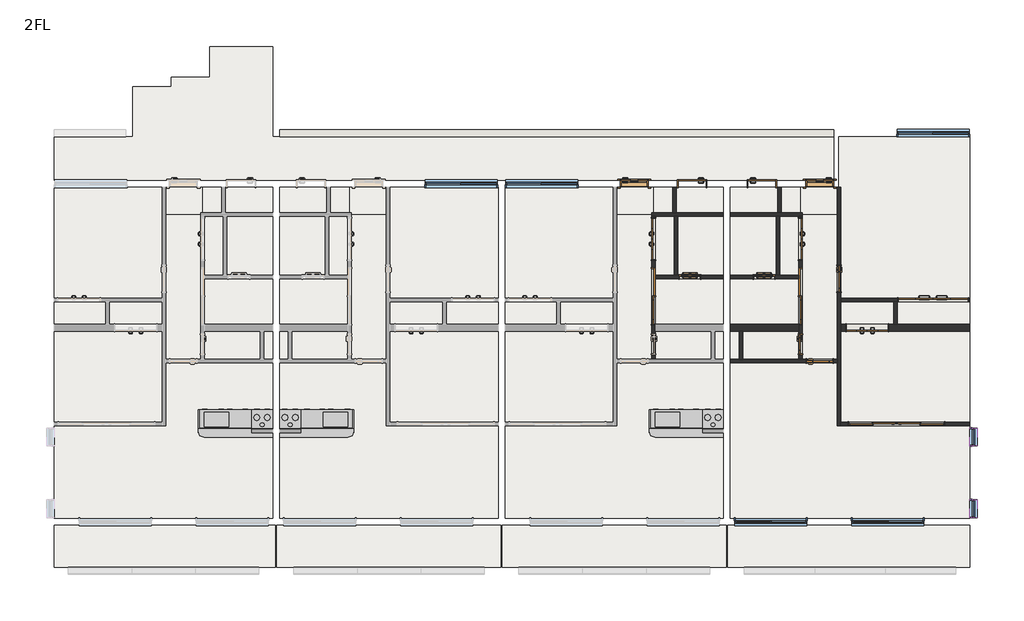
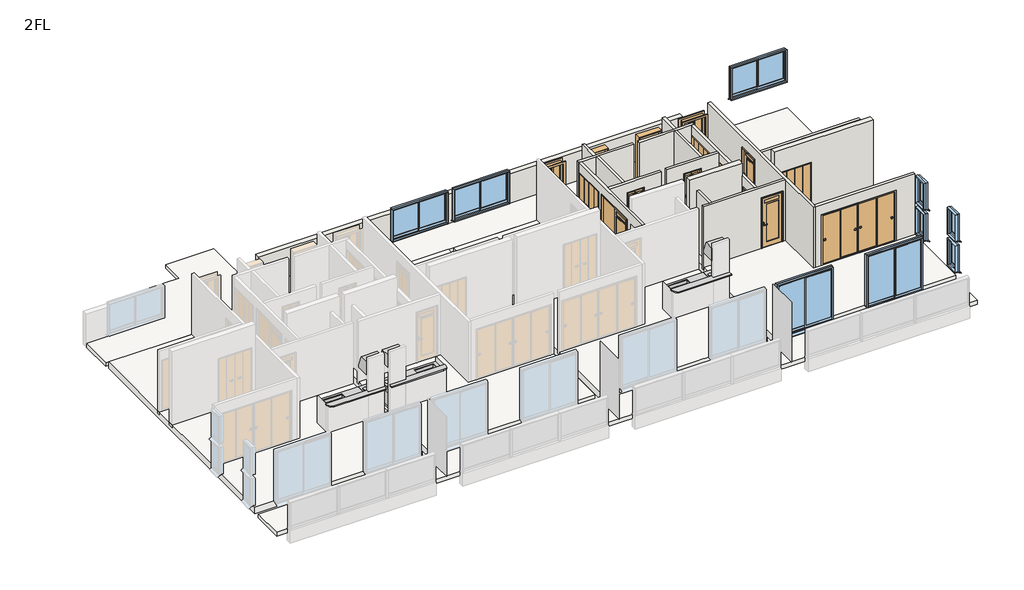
# One storey, part 3 of 3: 19 walls, 16 doors, 14 slabs, 9 windows, 3 flow terminals, 3 furniture elements.
"""IFC4 building model written with IfcOpenShell, lengths in millimetres."""

from ifc_helpers import new_model, si_unit, frame, origin, place, context, project, spatial, polyline, outline, extrude, faceted_brep, transform, mapped, element, save
from components import door_800x2000_a7d1584b, door_800x2000_010bfebf, w1200h2000_6a144d60, w1200h2000_99d19fb3, w1200h2000_ebe1d490, w1600h2000_4c3c234a, w1600h2000_ca690e72, w2000h2000_5dbb6d6a, w2800h2000_04aa64cd, w600h2000_6a266bef, w600h2000_94bb9c3c, w600h2000_8ea70a65, w800h2000_1d97c4d4, w800h2000_13e9f519, w800h2000_ccb03061, w800h2000_0ab7d42c, flow_terminal_5276808d, flow_terminal_b13850ba, furniture_3a0496f9, furniture_dadabe7c, window_2000x1200_fc91d1cf, window_2000x2000_f1ff98da, window_450x1000_1cddc73c

model = new_model("IFC4")

# Units and contexts
model_context = context("Model", 3, world=origin())
ifc_project = project(units=[si_unit("LENGTHUNIT", "METRE", prefix="MILLI")], contexts=[model_context])

# Site, building, storey
site = spatial("IfcSite", under=ifc_project)
building = spatial("IfcBuilding", under=site)
storey = spatial("IfcBuildingStorey", under=building, Name="2FL", Elevation=4000.0)

# Doors
placement = place(None, origin())
door_800x2000_shape = door_800x2000_a7d1584b(model_context)
element("IfcDoor", 1, ObjectType="片開き3 : 800x2000", at=placement, inside=storey, context=model_context, shape_type="MappedRepresentation", body=[
    mapped(door_800x2000_shape, transform((5521.2812754, -5700.1171638, 4000.0), x_axis=(1.0, 0.0, 0.0), y_axis=(0.0, 1.0, 0.0), z_axis=(0.0, 0.0, 1.0))),
])
door_800x2000_2_shape = door_800x2000_010bfebf(model_context)
element("IfcDoor", 2, ObjectType="片開き3 : 800x2000", at=placement, inside=storey, context=model_context, shape_type="MappedRepresentation", body=[
    mapped(door_800x2000_2_shape, transform((10821.2812754, -5700.1171638, 4000.0), x_axis=(-1.0, 0.0, 0.0), y_axis=(0.0, -1.0, 0.0), z_axis=(0.0, 0.0, 1.0))),
])
w1200h2000_shape = w1200h2000_6a144d60(model_context)
element("IfcDoor", 3, ObjectType="木製折戸 : w1200h2000", at=placement, inside=storey, context=model_context, shape_type="MappedRepresentation", body=[
    mapped(w1200h2000_shape, transform((6071.2812754, -7280.1171638, 4100.0), x_axis=(0.0, 1.0, 0.0), y_axis=(-1.0, 0.0, 0.0), z_axis=(0.0, 0.0, 1.0))),
])
w1200h2000_2_shape = w1200h2000_99d19fb3(model_context)
element("IfcDoor", 4, ObjectType="木製折戸 : w1200h2000", at=placement, inside=storey, context=model_context, shape_type="MappedRepresentation", body=[
    mapped(w1200h2000_2_shape, transform((10271.2812754, -7280.1171638, 4100.0), x_axis=(0.0, 1.0, 0.0), y_axis=(-1.0, 0.0, 0.0), z_axis=(0.0, 0.0, 1.0))),
])
w1200h2000_3_shape = w1200h2000_ebe1d490(model_context)
element("IfcDoor", 5, ObjectType="木製折戸 : w1200h2000", at=placement, inside=storey, context=model_context, shape_type="MappedRepresentation", body=[
    mapped(w1200h2000_3_shape, transform((12183.7812754, -9820.1171638, 4100.0), x_axis=(1.0, 0.0, 0.0), y_axis=(0.0, 1.0, 0.0), z_axis=(0.0, 0.0, 1.0))),
])
w1600h2000_shape = w1600h2000_4c3c234a(model_context)
element("IfcDoor", 6, ObjectType="片引戸CL2017 : w1600h2000", at=placement, inside=storey, context=model_context, shape_type="MappedRepresentation", body=[
    mapped(w1600h2000_shape, transform((6071.2812754, -8920.1171638, 4100.0), x_axis=(0.0, -1.0, 0.0), y_axis=(1.0, 0.0, 0.0), z_axis=(0.0, 0.0, 1.0))),
])
w1600h2000_2_shape = w1600h2000_ca690e72(model_context)
element("IfcDoor", 7, ObjectType="片引戸CL2017 : w1600h2000", at=placement, inside=storey, context=model_context, shape_type="MappedRepresentation", body=[
    mapped(w1600h2000_2_shape, transform((10271.2812754, -8920.1171638, 4100.0), x_axis=(0.0, -1.0, 0.0), y_axis=(1.0, 0.0, 0.0), z_axis=(0.0, 0.0, 1.0))),
])
w2000h2000_shape = w2000h2000_5dbb6d6a(model_context)
element("IfcDoor", 8, ObjectType="木製折戸 : w2000h2000", at=placement, inside=storey, context=model_context, shape_type="MappedRepresentation", body=[
    mapped(w2000h2000_shape, transform((14066.2812754, -9020.1171638, 4100.0), x_axis=(-1.0, 0.0, 0.0), y_axis=(0.0, -1.0, 0.0), z_axis=(0.0, 0.0, 1.0))),
])
w2800h2000_shape = w2800h2000_04aa64cd(model_context)
element("IfcDoor", 9, ObjectType="引違い 4 枚 2 溝_襖 : w2800h2000", at=placement, inside=storey, context=model_context, shape_type="MappedRepresentation", body=[
    mapped(w2800h2000_shape, transform((13026.8167793, -12570.1171638, 4100.0), x_axis=(1.0, 0.0, 0.0), y_axis=(0.0, 1.0, 0.0), z_axis=(0.0, 0.0, 1.0))),
])
w600h2000_shape = w600h2000_6a266bef(model_context)
element("IfcDoor", 10, ObjectType="浴室折戸 : w600h2000", at=placement, inside=storey, context=model_context, shape_type="MappedRepresentation", body=[
    mapped(w600h2000_shape, transform((7111.2812754, -8370.1171638, 4100.0), x_axis=(1.0, 0.0, 0.0), y_axis=(0.0, 1.0, 0.0), z_axis=(0.0, 0.0, 1.0))),
])
w600h2000_2_shape = w600h2000_94bb9c3c(model_context)
element("IfcDoor", 11, ObjectType="浴室折戸 : w600h2000", at=placement, inside=storey, context=model_context, shape_type="MappedRepresentation", body=[
    mapped(w600h2000_2_shape, transform((9231.2812754, -8370.1171638, 4100.0), x_axis=(-1.0, 0.0, 0.0), y_axis=(0.0, -1.0, 0.0), z_axis=(0.0, 0.0, 1.0))),
])
w600h2000_3_shape = w600h2000_8ea70a65(model_context)
element("IfcDoor", 12, ObjectType="片開戸CL2058 : w600h2000", at=placement, inside=storey, context=model_context, shape_type="MappedRepresentation", body=[
    mapped(w600h2000_3_shape, transform((10271.2812754, -10295.1171638, 4100.0), x_axis=(0.0, -1.0, 0.0), y_axis=(1.0, 0.0, 0.0), z_axis=(0.0, 0.0, 1.0))),
])
w800h2000_shape = w800h2000_1d97c4d4(model_context)
element("IfcDoor", 13, ObjectType="片開 : w800h2000", at=placement, inside=storey, context=model_context, shape_type="MappedRepresentation", body=[
    mapped(w800h2000_shape, transform((7171.2812754, -5700.1171638, 4000.0), x_axis=(-1.0, 0.0, 0.0), y_axis=(0.0, -1.0, 0.0), z_axis=(0.0, 0.0, 1.0))),
])
w800h2000_2_shape = w800h2000_13e9f519(model_context)
element("IfcDoor", 14, ObjectType="片開戸CL2058 : w800h2000", at=placement, inside=storey, context=model_context, shape_type="MappedRepresentation", body=[
    mapped(w800h2000_2_shape, transform((10821.2812754, -10770.1171638, 4100.0), x_axis=(1.0, 0.0, 0.0), y_axis=(0.0, 1.0, 0.0), z_axis=(0.0, 0.0, 1.0))),
])
w800h2000_3_shape = w800h2000_ccb03061(model_context)
element("IfcDoor", 15, ObjectType="片開戸CL2058 : w800h2000", at=placement, inside=storey, context=model_context, shape_type="MappedRepresentation", body=[
    mapped(w800h2000_3_shape, transform((11371.2812754, -8420.1171638, 4100.0), x_axis=(0.0, -1.0, 0.0), y_axis=(1.0, 0.0, 0.0), z_axis=(0.0, 0.0, 1.0))),
])
w800h2000_4_shape = w800h2000_0ab7d42c(model_context)
element("IfcDoor", 16, ObjectType="片開 : w800h2000", at=placement, inside=storey, context=model_context, shape_type="MappedRepresentation", body=[
    mapped(w800h2000_4_shape, transform((9171.2812754, -5700.1171638, 4000.0), x_axis=(1.0, 0.0, 0.0), y_axis=(0.0, 1.0, 0.0), z_axis=(0.0, 0.0, 1.0))),
])

# Flow terminals
flow_terminal_shape = flow_terminal_5276808d(model_context)
element("IfcFlowTerminal", 17, ObjectType="システムキッチンIH : システムキッチンIH", at=placement, inside=storey, context=model_context, shape_type="MappedRepresentation", body=[
    mapped(flow_terminal_shape, transform((-4828.7187246, -12720.1171638, 4200.0), x_axis=(1.0, 0.0, 0.0), y_axis=(0.0, 1.0, 0.0), z_axis=(0.0, 0.0, 1.0))),
])
element("IfcFlowTerminal", 18, ObjectType="システムキッチンIH : システムキッチンIH", at=placement, inside=storey, context=model_context, shape_type="MappedRepresentation", body=[
    mapped(flow_terminal_shape, transform((8071.2812754, -12720.1171638, 4200.0), x_axis=(1.0, 0.0, 0.0), y_axis=(0.0, 1.0, 0.0), z_axis=(0.0, 0.0, 1.0))),
])
flow_terminal_2_shape = flow_terminal_b13850ba(model_context)
element("IfcFlowTerminal", 19, ObjectType="システムキッチンIH : システムキッチンIH", at=placement, inside=storey, context=model_context, shape_type="MappedRepresentation", body=[
    mapped(flow_terminal_2_shape, transform((-4628.7187246, -12720.1171638, 4200.0), x_axis=(-1.0, 0.0, 0.0), y_axis=(0.0, -1.0, 0.0), z_axis=(0.0, 0.0, 1.0))),
])

# Furniture
furniture_shape = furniture_3a0496f9(model_context)
element("IfcFurniture", 20, ObjectType="キッチンカウンター : キッチンカウンター", at=placement, inside=storey, context=model_context, shape_type="MappedRepresentation", body=[
    mapped(furniture_shape, transform((-4628.7187246, -12820.1171638, 4100.0), x_axis=(-1.0, 0.0, 0.0), y_axis=(0.0, -1.0, 0.0), z_axis=(0.0, 0.0, 1.0))),
])
furniture_2_shape = furniture_dadabe7c(model_context)
element("IfcFurniture", 21, ObjectType="キッチンカウンター : キッチンカウンター", at=placement, inside=storey, context=model_context, shape_type="MappedRepresentation", body=[
    mapped(furniture_2_shape, transform((-4828.7187246, -12820.1171638, 4100.0), x_axis=(1.0, 0.0, 0.0), y_axis=(0.0, 1.0, 0.0), z_axis=(0.0, 0.0, 1.0))),
])
element("IfcFurniture", 22, ObjectType="キッチンカウンター : キッチンカウンター", at=placement, inside=storey, context=model_context, shape_type="MappedRepresentation", body=[
    mapped(furniture_2_shape, transform((8071.2812754, -12820.1171638, 4100.0), x_axis=(1.0, 0.0, 0.0), y_axis=(0.0, 1.0, 0.0), z_axis=(0.0, 0.0, 1.0))),
])

# Slabs
element("IfcSlab", 23, ObjectType="RC150＋100", at=placement, inside=storey, context=model_context, shape_type="SweptSolid", body=[
    extrude(outline(polyline([(-4828.7187246, -15270.1171638), (-11078.7187246, -15270.1171638), (-11078.7187246, -5800.1171638), (-7928.7187246, -5800.1171638), (-7928.7187246, -6580.1171638), (-6828.7187246, -6580.1171638), (-6828.7187246, -5800.1171638), (-4828.7187246, -5800.1171638), (-4828.7187246, -6580.1171638), (-6188.7187246, -6580.1171638), (-6188.7187246, -8370.1171638), (-4828.7187246, -8370.1171638), (-4828.7187246, -15270.1171638)])), frame((0.0, 0.0, 3850.0), z_axis=(0.0, 0.0, 1.0), x_axis=(1.0, 0.0, 0.0)), (0.0, 0.0, 1.0), 250.0),
])
element("IfcSlab", 24, ObjectType="RC150＋100", at=placement, inside=storey, context=model_context, shape_type="SweptSolid", body=[
    extrude(outline(polyline([(-4628.7187246, -15270.1171638), (-4628.7187246, -8370.1171638), (-3268.7187246, -8370.1171638), (-3268.7187246, -6580.1171638), (-4628.7187246, -6580.1171638), (-4628.7187246, -5800.1171638), (-2628.7187246, -5800.1171638), (-2628.7187246, -6580.1171638), (-1528.7187246, -6580.1171638), (-1528.7187246, -5800.1171638), (1621.2812754, -5800.1171638), (1621.2812754, -15270.1171638), (-4628.7187246, -15270.1171638)])), frame((0.0, 0.0, 3850.0), z_axis=(0.0, 0.0, 1.0), x_axis=(1.0, 0.0, 0.0)), (0.0, 0.0, 1.0), 250.0),
])
element("IfcSlab", 25, ObjectType="RC150＋100", at=placement, inside=storey, context=model_context, shape_type="SweptSolid", body=[
    extrude(outline(polyline([(8071.2812754, -15270.1171638), (1821.2812754, -15270.1171638), (1821.2812754, -5800.1171638), (4971.2812754, -5800.1171638), (4971.2812754, -6580.1171638), (6071.2812754, -6580.1171638), (6071.2812754, -5800.1171638), (8071.2812754, -5800.1171638), (8071.2812754, -6580.1171638), (6711.2812754, -6580.1171638), (6711.2812754, -8370.1171638), (8071.2812754, -8370.1171638), (8071.2812754, -15270.1171638)])), frame((0.0, 0.0, 3850.0), z_axis=(0.0, 0.0, 1.0), x_axis=(1.0, 0.0, 0.0)), (0.0, 0.0, 1.0), 250.0),
])
element("IfcSlab", 26, ObjectType="RC150＋100", at=placement, inside=storey, context=model_context, shape_type="SweptSolid", body=[
    extrude(outline(polyline([(8271.2812754, -15270.1171638), (8271.2812754, -8370.1171638), (9631.2812754, -8370.1171638), (9631.2812754, -6580.1171638), (8271.2812754, -6580.1171638), (8271.2812754, -5800.1171638), (10271.2812754, -5800.1171638), (10271.2812754, -6580.1171638), (11371.2812754, -6580.1171638), (11371.2812754, -4350.1171638), (15121.2812754, -4350.1171638), (15121.2812754, -15270.1171638), (8271.2812754, -15270.1171638)])), frame((0.0, 0.0, 3850.0), z_axis=(0.0, 0.0, 1.0), x_axis=(1.0, 0.0, 0.0)), (0.0, 0.0, 1.0), 250.0),
])
element("IfcSlab", 27, ObjectType="RC150", at=placement, inside=storey, context=model_context, shape_type="SweptSolid", body=[
    extrude(outline(polyline([(-4828.7187246, -8370.1171638), (-6188.7187246, -8370.1171638), (-6188.7187246, -6580.1171638), (-4828.7187246, -6580.1171638), (-4828.7187246, -8370.1171638)])), frame((0.0, 0.0, 3850.0), z_axis=(0.0, 0.0, 1.0), x_axis=(1.0, 0.0, 0.0)), (0.0, 0.0, 1.0), 150.0),
])
element("IfcSlab", 28, ObjectType="RC150", at=placement, inside=storey, context=model_context, shape_type="SweptSolid", body=[
    extrude(outline(polyline([(-6828.7187246, -6580.1171638), (-7928.7187246, -6580.1171638), (-7928.7187246, -5800.1171638), (-6828.7187246, -5800.1171638), (-6828.7187246, -6580.1171638)])), frame((0.0, 0.0, 3800.0), z_axis=(0.0, 0.0, 1.0), x_axis=(1.0, 0.0, 0.0)), (0.0, 0.0, 1.0), 150.0),
])
element("IfcSlab", 29, ObjectType="RC150", at=placement, inside=storey, context=model_context, shape_type="SweptSolid", body=[
    extrude(outline(polyline([(-4628.7187246, -8370.1171638), (-4628.7187246, -6580.1171638), (-3268.7187246, -6580.1171638), (-3268.7187246, -8370.1171638), (-4628.7187246, -8370.1171638)])), frame((0.0, 0.0, 3850.0), z_axis=(0.0, 0.0, 1.0), x_axis=(1.0, 0.0, 0.0)), (0.0, 0.0, 1.0), 150.0),
])
element("IfcSlab", 30, ObjectType="RC150", at=placement, inside=storey, context=model_context, shape_type="SweptSolid", body=[
    extrude(outline(polyline([(-2628.7187246, -6580.1171638), (-2628.7187246, -5800.1171638), (-1528.7187246, -5800.1171638), (-1528.7187246, -6580.1171638), (-2628.7187246, -6580.1171638)])), frame((0.0, 0.0, 3800.0), z_axis=(0.0, 0.0, 1.0), x_axis=(1.0, 0.0, 0.0)), (0.0, 0.0, 1.0), 150.0),
])
element("IfcSlab", 31, ObjectType="RC150", at=placement, inside=storey, context=model_context, shape_type="SweptSolid", body=[
    extrude(outline(polyline([(8071.2812754, -8370.1171638), (6711.2812754, -8370.1171638), (6711.2812754, -6580.1171638), (8071.2812754, -6580.1171638), (8071.2812754, -8370.1171638)])), frame((0.0, 0.0, 3850.0), z_axis=(0.0, 0.0, 1.0), x_axis=(1.0, 0.0, 0.0)), (0.0, 0.0, 1.0), 150.0),
])
element("IfcSlab", 32, ObjectType="RC150", at=placement, inside=storey, context=model_context, shape_type="SweptSolid", body=[
    extrude(outline(polyline([(6071.2812754, -6580.1171638), (4971.2812754, -6580.1171638), (4971.2812754, -5800.1171638), (6071.2812754, -5800.1171638), (6071.2812754, -6580.1171638)])), frame((0.0, 0.0, 3800.0), z_axis=(0.0, 0.0, 1.0), x_axis=(1.0, 0.0, 0.0)), (0.0, 0.0, 1.0), 150.0),
])
element("IfcSlab", 33, ObjectType="RC150", at=placement, inside=storey, context=model_context, shape_type="SweptSolid", body=[
    extrude(outline(polyline([(8271.2812754, -8370.1171638), (8271.2812754, -6580.1171638), (9631.2812754, -6580.1171638), (9631.2812754, -8370.1171638), (8271.2812754, -8370.1171638)])), frame((0.0, 0.0, 3850.0), z_axis=(0.0, 0.0, 1.0), x_axis=(1.0, 0.0, 0.0)), (0.0, 0.0, 1.0), 150.0),
])
element("IfcSlab", 34, ObjectType="RC150", at=placement, inside=storey, context=model_context, shape_type="SweptSolid", body=[
    extrude(outline(polyline([(10271.2812754, -6580.1171638), (10271.2812754, -5800.1171638), (11371.2812754, -5800.1171638), (11371.2812754, -6580.1171638), (10271.2812754, -6580.1171638)])), frame((0.0, 0.0, 3800.0), z_axis=(0.0, 0.0, 1.0), x_axis=(1.0, 0.0, 0.0)), (0.0, 0.0, 1.0), 150.0),
])
element("IfcSlab", 35, ObjectType="RC150", at=placement, inside=storey, context=model_context, shape_type="SweptSolid", body=[
    extrude(outline(polyline([(-8828.7187246, -4350.1171638), (-8828.7187246, -2920.1171638), (-7728.7187246, -2920.1171638), (-7728.7187246, -2660.1171638), (-6628.7187246, -2660.1171638), (-6628.7187246, -1775.1171638), (-4828.7187246, -1775.1171638), (-4828.7187246, -4350.1171638), (11221.2812754, -4350.1171638), (11221.2812754, -5600.1171638), (-11078.7187246, -5600.1171638), (-11078.7187246, -4350.1171638), (-8828.7187246, -4350.1171638)])), frame((0.0, 0.0, 3800.0), z_axis=(0.0, 0.0, 1.0), x_axis=(1.0, 0.0, 0.0)), (0.0, 0.0, 1.0), 150.0),
])
element("IfcSlab", 36, ObjectType="RC150", at=placement, inside=storey, context=model_context, shape_type="SweptSolid", body=[
    extrude(outline(polyline([(15121.2812754, -15470.1171638), (15121.2812754, -16670.1171638), (-11078.7187246, -16670.1171638), (-11078.7187246, -15470.1171638), (15121.2812754, -15470.1171638)])), frame((0.0, 0.0, 3800.0), z_axis=(0.0, 0.0, 1.0), x_axis=(1.0, 0.0, 0.0)), (0.0, 0.0, 1.0), 150.0),
])

# Walls
element("IfcWall", 37, ObjectType="(R)RC200", at=placement, inside=storey, context=model_context, shape_type="Brep", body=[
    faceted_brep([(15121.2812754, -9720.1171638, 4000.0), (13046.2812754, -9720.1171638, 4000.0), (12946.2812754, -9720.1171638, 4000.0), (11421.2812754, -9720.1171638, 4000.0), (11421.2812754, -9720.1171638, 7000.0), (15121.2812754, -9720.1171638, 7000.0), (12803.7812754, -9720.1171638, 6120.0), (11563.7812754, -9720.1171638, 6120.0), (11563.7812754, -9720.1171638, 4100.0), (12803.7812754, -9720.1171638, 4100.0), (15121.2812754, -9920.1171638, 4000.0), (15121.2812754, -9920.1171638, 7000.0), (11421.2812754, -9920.1171638, 7000.0), (11421.2812754, -9920.1171638, 4000.0), (12803.7812754, -9920.1171638, 6120.0), (12803.7812754, -9920.1171638, 4100.0), (11563.7812754, -9920.1171638, 4100.0), (11563.7812754, -9920.1171638, 6120.0)], [[[0, 1, 2, 3, 4, 5], [6, 7, 8, 9]], [[10, 11, 12, 13], [14, 15, 16, 17]], [[3, 2, 1, 0, 10, 13]], [[5, 4, 12, 11]], [[4, 3, 13, 12]], [[15, 14, 6, 9]], [[16, 15, 9, 8]], [[17, 16, 8, 7]], [[14, 17, 7, 6]], [[0, 5, 11, 10]]]),
])
element("IfcWall", 38, ObjectType="(R)RC200", at=placement, inside=storey, context=model_context, shape_type="Brep", body=[
    faceted_brep([(10221.2812754, -9720.1171638, 4000.0), (8271.2812754, -9720.1171638, 4000.0), (8271.2812754, -9720.1171638, 7000.0), (10221.2812754, -9720.1171638, 7000.0), (10221.2812754, -9920.1171638, 4000.0), (10221.2812754, -9920.1171638, 7000.0), (8271.2812754, -9920.1171638, 7000.0), (8271.2812754, -9920.1171638, 4000.0), (8521.2812754, -9920.1171638, 4000.0), (8621.2812754, -9920.1171638, 4000.0)], [[[0, 1, 2, 3]], [[4, 5, 6, 7, 8, 9]], [[1, 0, 4, 9, 8, 7]], [[3, 2, 6, 5]], [[0, 3, 5, 4]], [[2, 1, 7, 6]]]),
])
element("IfcWall", 39, ObjectType="(R)RC200", at=placement, inside=storey, context=model_context, shape_type="Brep", body=[
    faceted_brep([(-4628.7187246, -4350.1171638, 5100.0), (-4628.7187246, -4350.1171638, 3800.0), (-1628.7187246, -4350.1171638, 3800.0), (11221.2812754, -4350.1171638, 3800.0), (11221.2812754, -4350.1171638, 5100.0), (-4628.7187246, -4150.1171638, 3800.0), (-4628.7187246, -4150.1171638, 5100.0), (11221.2812754, -4150.1171638, 5100.0), (11221.2812754, -4150.1171638, 3800.0), (-1628.7187246, -4150.1171638, 3800.0)], [[[0, 1, 2, 3, 4]], [[5, 6, 7, 8, 9]], [[3, 2, 1, 5, 9, 8]], [[0, 4, 7, 6]], [[4, 3, 8, 7]], [[0, 6, 5, 1]]]),
])
element("IfcWall", 40, ObjectType="(L1)LGS100", at=placement, inside=storey, context=model_context, shape_type="Brep", body=[
    faceted_brep([(6121.2812754, -8420.1171638, 4000.0), (8071.2812754, -8420.1171638, 4000.0), (8071.2812754, -8420.1171638, 6500.0), (6121.2812754, -8420.1171638, 6500.0), (7431.2812754, -8420.1171638, 6120.0), (7431.2812754, -8420.1171638, 4100.0), (6791.2812754, -8420.1171638, 4100.0), (6791.2812754, -8420.1171638, 6120.0), (6121.2812754, -8320.1171638, 4000.0), (6121.2812754, -8320.1171638, 6500.0), (6661.2812754, -8320.1171638, 6500.0), (6761.2812754, -8320.1171638, 6500.0), (8071.2812754, -8320.1171638, 6500.0), (8071.2812754, -8320.1171638, 4000.0), (6761.2812754, -8320.1171638, 4000.0), (6661.2812754, -8320.1171638, 4000.0), (7431.2812754, -8320.1171638, 6120.0), (6791.2812754, -8320.1171638, 6120.0), (6791.2812754, -8320.1171638, 4100.0), (7431.2812754, -8320.1171638, 4100.0)], [[[0, 1, 2, 3], [4, 5, 6, 7]], [[8, 9, 10, 11, 12, 13, 14, 15], [16, 17, 18, 19]], [[1, 0, 8, 15, 14, 13]], [[3, 2, 12, 11, 10, 9]], [[0, 3, 9, 8]], [[5, 4, 16, 19]], [[6, 5, 19, 18]], [[7, 6, 18, 17]], [[4, 7, 17, 16]], [[2, 1, 13, 12]]]),
])
element("IfcWall", 41, ObjectType="(L1)LGS100", at=placement, inside=storey, context=model_context, shape_type="Brep", body=[
    faceted_brep([(6121.2812754, -10720.1171638, 4000.0), (6121.2812754, -9920.1171638, 4000.0), (6121.2812754, -9720.1171638, 4000.0), (6121.2812754, -8420.1171638, 4000.0), (6121.2812754, -8320.1171638, 4000.0), (6121.2812754, -6630.1171638, 4000.0), (6121.2812754, -6630.1171638, 6500.0), (6121.2812754, -8320.1171638, 6500.0), (6121.2812754, -8420.1171638, 6500.0), (6121.2812754, -10720.1171638, 6500.0), (6121.2812754, -10595.1171638, 4100.0), (6121.2812754, -10595.1171638, 6100.0), (6121.2812754, -9995.1171638, 6100.0), (6121.2812754, -9995.1171638, 4100.0), (6121.2812754, -6660.1171638, 4100.0), (6121.2812754, -7900.1171638, 4100.0), (6121.2812754, -7900.1171638, 6120.0), (6121.2812754, -6660.1171638, 6120.0), (6121.2812754, -9745.1171638, 4100.0), (6121.2812754, -9745.1171638, 6140.0), (6121.2812754, -8095.1171638, 6140.0), (6121.2812754, -8095.1171638, 4100.0), (6021.2812754, -6630.1171638, 4000.0), (6021.2812754, -10720.1171638, 4000.0), (6021.2812754, -10720.1171638, 6500.0), (6021.2812754, -6630.1171638, 6500.0), (6021.2812754, -10595.1171638, 4100.0), (6021.2812754, -9995.1171638, 4100.0), (6021.2812754, -9995.1171638, 6100.0), (6021.2812754, -10595.1171638, 6100.0), (6021.2812754, -7900.1171638, 4100.0), (6021.2812754, -6660.1171638, 4100.0), (6021.2812754, -6660.1171638, 6120.0), (6021.2812754, -7900.1171638, 6120.0), (6021.2812754, -9745.1171638, 4100.0), (6021.2812754, -8095.1171638, 4100.0), (6021.2812754, -8095.1171638, 6140.0), (6021.2812754, -9745.1171638, 6140.0)], [[[0, 1, 2, 3, 4, 5, 6, 7, 8, 9], [10, 11, 12, 13], [14, 15, 16, 17], [18, 19, 20, 21]], [[22, 23, 24, 25], [26, 27, 28, 29], [30, 31, 32, 33], [34, 35, 36, 37]], [[5, 4, 3, 2, 1, 0, 23, 22]], [[9, 8, 7, 6, 25, 24]], [[0, 9, 24, 23]], [[11, 10, 26, 29]], [[12, 11, 29, 28]], [[13, 12, 28, 27]], [[10, 13, 27, 26]], [[14, 31, 30, 15]], [[15, 30, 33, 16]], [[16, 33, 32, 17]], [[19, 18, 34, 37]], [[20, 19, 37, 36]], [[21, 20, 36, 35]], [[18, 21, 35, 34]], [[31, 14, 17, 32]], [[6, 5, 22, 25]]]),
])
element("IfcWall", 42, ObjectType="(L1)LGS100", at=placement, inside=storey, context=model_context, shape_type="Brep", body=[
    faceted_brep([(6021.2812754, -6630.1171638, 4000.0), (6121.2812754, -6630.1171638, 4000.0), (6661.2812754, -6630.1171638, 4000.0), (6761.2812754, -6630.1171638, 4000.0), (8071.2812754, -6630.1171638, 4000.0), (8071.2812754, -6630.1171638, 6500.0), (6761.2812754, -6630.1171638, 6500.0), (6661.2812754, -6630.1171638, 6500.0), (6121.2812754, -6630.1171638, 6500.0), (6021.2812754, -6630.1171638, 6500.0), (6021.2812754, -6530.1171638, 4000.0), (6021.2812754, -6530.1171638, 6500.0), (6621.2812754, -6530.1171638, 6500.0), (6721.2812754, -6530.1171638, 6500.0), (8071.2812754, -6530.1171638, 6500.0), (8071.2812754, -6530.1171638, 4000.0), (6721.2812754, -6530.1171638, 4000.0), (6621.2812754, -6530.1171638, 4000.0)], [[[0, 1, 2, 3, 4, 5, 6, 7, 8, 9]], [[10, 11, 12, 13, 14, 15, 16, 17]], [[4, 3, 2, 1, 0, 10, 17, 16, 15]], [[9, 8, 7, 6, 5, 14, 13, 12, 11]], [[0, 9, 11, 10]], [[5, 4, 15, 14]]]),
])
element("IfcWall", 43, ObjectType="(L1)LGS100", at=placement, inside=storey, context=model_context, shape_type="SweptSolid", body=[
    extrude(outline(polyline([(6721.2812754, -5800.1171638), (6721.2812754, -6530.1171638), (6621.2812754, -6530.1171638), (6621.2812754, -5800.1171638), (6721.2812754, -5800.1171638)])), frame((0.0, 0.0, 4000.0), z_axis=(0.0, 0.0, 1.0), x_axis=(1.0, 0.0, 0.0)), (0.0, 0.0, 1.0), 2500.0),
])
element("IfcWall", 44, ObjectType="(L1)LGS100", at=placement, inside=storey, context=model_context, shape_type="SweptSolid", body=[
    extrude(outline(polyline([(6761.2812754, -6630.1171638), (6761.2812754, -8320.1171638), (6661.2812754, -8320.1171638), (6661.2812754, -6630.1171638), (6761.2812754, -6630.1171638)])), frame((0.0, 0.0, 4000.0), z_axis=(0.0, 0.0, 1.0), x_axis=(1.0, 0.0, 0.0)), (0.0, 0.0, 1.0), 2500.0),
])
element("IfcWall", 45, ObjectType="(L1)LGS100", at=placement, inside=storey, context=model_context, shape_type="Brep", body=[
    faceted_brep([(15121.2812754, -8970.1171638, 4000.0), (11421.2812754, -8970.1171638, 4000.0), (11421.2812754, -8970.1171638, 6500.0), (15121.2812754, -8970.1171638, 6500.0), (13046.2812754, -8970.1171638, 6120.0), (13046.2812754, -8970.1171638, 4100.0), (15086.2812754, -8970.1171638, 4100.0), (15086.2812754, -8970.1171638, 6120.0), (11421.2812754, -9070.1171638, 4000.0), (12946.2812754, -9070.1171638, 4000.0), (13046.2812754, -9070.1171638, 4000.0), (15121.2812754, -9070.1171638, 4000.0), (15121.2812754, -9070.1171638, 6500.0), (13046.2812754, -9070.1171638, 6500.0), (12946.2812754, -9070.1171638, 6500.0), (11421.2812754, -9070.1171638, 6500.0), (13046.2812754, -9070.1171638, 4100.0), (13046.2812754, -9070.1171638, 6120.0), (15086.2812754, -9070.1171638, 6120.0), (15086.2812754, -9070.1171638, 4100.0)], [[[0, 1, 2, 3], [4, 5, 6, 7]], [[8, 9, 10, 11, 12, 13, 14, 15], [16, 17, 18, 19]], [[1, 0, 11, 10, 9, 8]], [[3, 2, 15, 14, 13, 12]], [[2, 1, 8, 15]], [[4, 17, 16, 5]], [[5, 16, 19, 6]], [[17, 4, 7, 18]], [[18, 7, 6, 19]], [[0, 3, 12, 11]]]),
])
element("IfcWall", 46, ObjectType="(L1)LGS100", at=placement, inside=storey, context=model_context, shape_type="Brep", body=[
    faceted_brep([(13046.2812754, -9720.1171638, 4000.0), (13046.2812754, -9070.1171638, 4000.0), (13046.2812754, -9070.1171638, 4100.0), (13046.2812754, -9070.1171638, 6120.0), (13046.2812754, -9070.1171638, 6500.0), (13046.2812754, -9720.1171638, 6500.0), (12946.2812754, -9720.1171638, 4000.0), (12946.2812754, -9720.1171638, 6500.0), (12946.2812754, -9070.1171638, 6500.0), (12946.2812754, -9070.1171638, 4000.0)], [[[0, 1, 2, 3, 4, 5]], [[6, 7, 8, 9]], [[1, 0, 6, 9]], [[5, 4, 8, 7]], [[0, 5, 7, 6]], [[4, 3, 2, 1, 9, 8]]]),
])
element("IfcWall", 47, ObjectType="(L1)LGS100", at=placement, inside=storey, context=model_context, shape_type="Brep", body=[
    faceted_brep([(11421.2812754, -12620.1171638, 4000.0), (11421.2812754, -12520.1171638, 4000.0), (11421.2812754, -9920.1171638, 4000.0), (11421.2812754, -9720.1171638, 4000.0), (11421.2812754, -9070.1171638, 4000.0), (11421.2812754, -8970.1171638, 4000.0), (11421.2812754, -5800.1171638, 4000.0), (11421.2812754, -5800.1171638, 6500.0), (11421.2812754, -8970.1171638, 6500.0), (11421.2812754, -9070.1171638, 6500.0), (11421.2812754, -12520.1171638, 6500.0), (11421.2812754, -12620.1171638, 6500.0), (11421.2812754, -8820.1171638, 4100.0), (11421.2812754, -8820.1171638, 6100.0), (11421.2812754, -8020.1171638, 6100.0), (11421.2812754, -8020.1171638, 4100.0), (11321.2812754, -12620.1171638, 4000.0), (11321.2812754, -12620.1171638, 6500.0), (11321.2812754, -10820.1171638, 6500.0), (11321.2812754, -10720.1171638, 6500.0), (11321.2812754, -5800.1171638, 6500.0), (11321.2812754, -5800.1171638, 4000.0), (11321.2812754, -10720.1171638, 4000.0), (11321.2812754, -10820.1171638, 4000.0), (11321.2812754, -8820.1171638, 4100.0), (11321.2812754, -8020.1171638, 4100.0), (11321.2812754, -8020.1171638, 6100.0), (11321.2812754, -8820.1171638, 6100.0)], [[[0, 1, 2, 3, 4, 5, 6, 7, 8, 9, 10, 11], [12, 13, 14, 15]], [[16, 17, 18, 19, 20, 21, 22, 23], [24, 25, 26, 27]], [[6, 5, 4, 3, 2, 1, 0, 16, 23, 22, 21]], [[11, 10, 9, 8, 7, 20, 19, 18, 17]], [[0, 11, 17, 16]], [[13, 12, 24, 27]], [[14, 13, 27, 26]], [[15, 14, 26, 25]], [[12, 15, 25, 24]], [[7, 6, 21, 20]]]),
])
element("IfcWall", 48, ObjectType="(L1)LGS100", at=placement, inside=storey, context=model_context, shape_type="Brep", body=[
    faceted_brep([(10221.2812754, -8320.1171638, 4000.0), (9681.2812754, -8320.1171638, 4000.0), (9581.2812754, -8320.1171638, 4000.0), (8271.2812754, -8320.1171638, 4000.0), (8271.2812754, -8320.1171638, 6500.0), (9581.2812754, -8320.1171638, 6500.0), (9681.2812754, -8320.1171638, 6500.0), (10221.2812754, -8320.1171638, 6500.0), (8911.2812754, -8320.1171638, 6120.0), (8911.2812754, -8320.1171638, 4100.0), (9551.2812754, -8320.1171638, 4100.0), (9551.2812754, -8320.1171638, 6120.0), (10221.2812754, -8420.1171638, 4000.0), (10221.2812754, -8420.1171638, 6500.0), (8271.2812754, -8420.1171638, 6500.0), (8271.2812754, -8420.1171638, 4000.0), (8911.2812754, -8420.1171638, 6120.0), (9551.2812754, -8420.1171638, 6120.0), (9551.2812754, -8420.1171638, 4100.0), (8911.2812754, -8420.1171638, 4100.0)], [[[0, 1, 2, 3, 4, 5, 6, 7], [8, 9, 10, 11]], [[12, 13, 14, 15], [16, 17, 18, 19]], [[3, 2, 1, 0, 12, 15]], [[7, 6, 5, 4, 14, 13]], [[0, 7, 13, 12]], [[9, 8, 16, 19]], [[10, 9, 19, 18]], [[11, 10, 18, 17]], [[8, 11, 17, 16]], [[4, 3, 15, 14]]]),
])
element("IfcWall", 49, ObjectType="(L1)LGS100", at=placement, inside=storey, context=model_context, shape_type="Brep", body=[
    faceted_brep([(10321.2812754, -10720.1171638, 4000.0), (10321.2812754, -6630.1171638, 4000.0), (10321.2812754, -6630.1171638, 6500.0), (10321.2812754, -10720.1171638, 6500.0), (10321.2812754, -10595.1171638, 4100.0), (10321.2812754, -10595.1171638, 6100.0), (10321.2812754, -9995.1171638, 6100.0), (10321.2812754, -9995.1171638, 4100.0), (10321.2812754, -6660.1171638, 4100.0), (10321.2812754, -7900.1171638, 4100.0), (10321.2812754, -7900.1171638, 6120.0), (10321.2812754, -6660.1171638, 6120.0), (10321.2812754, -9745.1171638, 4100.0), (10321.2812754, -9745.1171638, 6140.0), (10321.2812754, -8095.1171638, 6140.0), (10321.2812754, -8095.1171638, 4100.0), (10221.2812754, -6630.1171638, 4000.0), (10221.2812754, -8320.1171638, 4000.0), (10221.2812754, -8420.1171638, 4000.0), (10221.2812754, -9720.1171638, 4000.0), (10221.2812754, -9920.1171638, 4000.0), (10221.2812754, -10720.1171638, 4000.0), (10221.2812754, -10720.1171638, 6500.0), (10221.2812754, -8420.1171638, 6500.0), (10221.2812754, -8320.1171638, 6500.0), (10221.2812754, -6630.1171638, 6500.0), (10221.2812754, -10595.1171638, 4100.0), (10221.2812754, -9995.1171638, 4100.0), (10221.2812754, -9995.1171638, 6100.0), (10221.2812754, -10595.1171638, 6100.0), (10221.2812754, -7900.1171638, 4100.0), (10221.2812754, -6660.1171638, 4100.0), (10221.2812754, -6660.1171638, 6120.0), (10221.2812754, -7900.1171638, 6120.0), (10221.2812754, -9745.1171638, 4100.0), (10221.2812754, -8095.1171638, 4100.0), (10221.2812754, -8095.1171638, 6140.0), (10221.2812754, -9745.1171638, 6140.0)], [[[0, 1, 2, 3], [4, 5, 6, 7], [8, 9, 10, 11], [12, 13, 14, 15]], [[16, 17, 18, 19, 20, 21, 22, 23, 24, 25], [26, 27, 28, 29], [30, 31, 32, 33], [34, 35, 36, 37]], [[1, 0, 21, 20, 19, 18, 17, 16]], [[3, 2, 25, 24, 23, 22]], [[0, 3, 22, 21]], [[2, 1, 16, 25]], [[5, 4, 26, 29]], [[6, 5, 29, 28]], [[7, 6, 28, 27]], [[4, 7, 27, 26]], [[8, 31, 30, 9]], [[9, 30, 33, 10]], [[10, 33, 32, 11]], [[13, 12, 34, 37]], [[14, 13, 37, 36]], [[15, 14, 36, 35]], [[12, 15, 35, 34]], [[31, 8, 11, 32]]]),
])
element("IfcWall", 50, ObjectType="(L1)LGS100", at=placement, inside=storey, context=model_context, shape_type="Brep", body=[
    faceted_brep([(10321.2812754, -6530.1171638, 4000.0), (9721.2812754, -6530.1171638, 4000.0), (9621.2812754, -6530.1171638, 4000.0), (8271.2812754, -6530.1171638, 4000.0), (8271.2812754, -6530.1171638, 6500.0), (9621.2812754, -6530.1171638, 6500.0), (9721.2812754, -6530.1171638, 6500.0), (10321.2812754, -6530.1171638, 6500.0), (10321.2812754, -6630.1171638, 4000.0), (10321.2812754, -6630.1171638, 6500.0), (10221.2812754, -6630.1171638, 6500.0), (9681.2812754, -6630.1171638, 6500.0), (9581.2812754, -6630.1171638, 6500.0), (8271.2812754, -6630.1171638, 6500.0), (8271.2812754, -6630.1171638, 4000.0), (9581.2812754, -6630.1171638, 4000.0), (9681.2812754, -6630.1171638, 4000.0), (10221.2812754, -6630.1171638, 4000.0)], [[[0, 1, 2, 3, 4, 5, 6, 7]], [[8, 9, 10, 11, 12, 13, 14, 15, 16, 17]], [[3, 2, 1, 0, 8, 17, 16, 15, 14]], [[7, 6, 5, 4, 13, 12, 11, 10, 9]], [[0, 7, 9, 8]], [[4, 3, 14, 13]]]),
])
element("IfcWall", 51, ObjectType="(L1)LGS100", at=placement, inside=storey, context=model_context, shape_type="SweptSolid", body=[
    extrude(outline(polyline([(9721.2812754, -5800.1171638), (9721.2812754, -6530.1171638), (9621.2812754, -6530.1171638), (9621.2812754, -5800.1171638), (9721.2812754, -5800.1171638)])), frame((0.0, 0.0, 4000.0), z_axis=(0.0, 0.0, 1.0), x_axis=(1.0, 0.0, 0.0)), (0.0, 0.0, 1.0), 2500.0),
])
element("IfcWall", 52, ObjectType="(L1)LGS100", at=placement, inside=storey, context=model_context, shape_type="SweptSolid", body=[
    extrude(outline(polyline([(9681.2812754, -6630.1171638), (9681.2812754, -8320.1171638), (9581.2812754, -8320.1171638), (9581.2812754, -6630.1171638), (9681.2812754, -6630.1171638)])), frame((0.0, 0.0, 4000.0), z_axis=(0.0, 0.0, 1.0), x_axis=(1.0, 0.0, 0.0)), (0.0, 0.0, 1.0), 2500.0),
])
element("IfcWall", 53, ObjectType="(L1)LGS100", at=placement, inside=storey, context=model_context, shape_type="SweptSolid", body=[
    extrude(outline(polyline([(8621.2812754, -9920.1171638), (8621.2812754, -10720.1171638), (8521.2812754, -10720.1171638), (8521.2812754, -9920.1171638), (8621.2812754, -9920.1171638)])), frame((0.0, 0.0, 4000.0), z_axis=(0.0, 0.0, 1.0), x_axis=(1.0, 0.0, 0.0)), (0.0, 0.0, 1.0), 2500.0),
])
element("IfcWall", 54, ObjectType="(L1)LGS100", at=placement, inside=storey, context=model_context, shape_type="Brep", body=[
    faceted_brep([(11321.2812754, -10720.1171638, 4000.0), (10321.2812754, -10720.1171638, 4000.0), (10221.2812754, -10720.1171638, 4000.0), (8621.2812754, -10720.1171638, 4000.0), (8521.2812754, -10720.1171638, 4000.0), (8271.2812754, -10720.1171638, 4000.0), (8271.2812754, -10720.1171638, 6500.0), (8521.2812754, -10720.1171638, 6500.0), (8621.2812754, -10720.1171638, 6500.0), (10221.2812754, -10720.1171638, 6500.0), (10321.2812754, -10720.1171638, 6500.0), (11321.2812754, -10720.1171638, 6500.0), (11221.2812754, -10720.1171638, 4100.0), (11221.2812754, -10720.1171638, 6100.0), (10421.2812754, -10720.1171638, 6100.0), (10421.2812754, -10720.1171638, 4100.0), (8271.2812754, -10820.1171638, 4000.0), (11321.2812754, -10820.1171638, 4000.0), (11321.2812754, -10820.1171638, 6500.0), (8271.2812754, -10820.1171638, 6500.0), (11221.2812754, -10820.1171638, 6100.0), (11221.2812754, -10820.1171638, 4100.0), (10421.2812754, -10820.1171638, 4100.0), (10421.2812754, -10820.1171638, 6100.0)], [[[0, 1, 2, 3, 4, 5, 6, 7, 8, 9, 10, 11], [12, 13, 14, 15]], [[16, 17, 18, 19], [20, 21, 22, 23]], [[5, 4, 3, 2, 1, 0, 17, 16]], [[11, 10, 9, 8, 7, 6, 19, 18]], [[0, 11, 18, 17]], [[12, 21, 20, 13]], [[13, 20, 23, 14]], [[14, 23, 22, 15]], [[21, 12, 15, 22]], [[6, 5, 16, 19]]]),
])
element("IfcWall", 55, ObjectType="(L1)LGS100", at=placement, inside=storey, context=model_context, shape_type="SweptSolid", body=[
    extrude(outline(polyline([(4000.0, 15121.2812754), (6500.0, 15121.2812754), (6500.0, 11421.2812754), (4000.0, 11421.2812754), (4000.0, 15121.2812754)]), holes=[polyline([(6100.0, 14421.2812754), (4100.0, 14421.2812754), (4100.0, 11621.2812754), (6100.0, 11621.2812754), (6100.0, 14421.2812754)])]), frame((0.0, -12620.1171638, 0.0), z_axis=(0.0, 1.0, 0.0), x_axis=(0.0, 0.0, 1.0)), (0.0, 0.0, 1.0), 100.0),
])

# Windows
window_2000x1200_shape = window_2000x1200_fc91d1cf(model_context)
element("IfcWindow", 56, ObjectType="鋼製_一般枠_引違い-二枚 : 2000x1200", at=placement, inside=storey, context=model_context, shape_type="MappedRepresentation", body=[
    mapped(window_2000x1200_shape, transform((571.2812754, -5700.1171638, 4250.0), x_axis=(1.0, 0.0, 0.0), y_axis=(0.0, 1.0, 0.0), z_axis=(0.0, 0.0, 1.0))),
])
element("IfcWindow", 57, ObjectType="鋼製_一般枠_引違い-二枚 : 2000x1200", at=placement, inside=storey, context=model_context, shape_type="MappedRepresentation", body=[
    mapped(window_2000x1200_shape, transform((2871.2812754, -5700.1171638, 4250.0), x_axis=(1.0, 0.0, 0.0), y_axis=(0.0, 1.0, 0.0), z_axis=(0.0, 0.0, 1.0))),
])
element("IfcWindow", 58, ObjectType="鋼製_一般枠_引違い-二枚 : 2000x1200", at=placement, inside=storey, context=model_context, shape_type="MappedRepresentation", body=[
    mapped(window_2000x1200_shape, transform((14071.2812754, -4250.1171638, 4250.0), x_axis=(1.0, 0.0, 0.0), y_axis=(0.0, 1.0, 0.0), z_axis=(0.0, 0.0, 1.0))),
])
window_2000x2000_shape = window_2000x2000_f1ff98da(model_context)
element("IfcWindow", 59, ObjectType="鋼製_一般枠_引違い-二枚 : 2000x2000", at=placement, inside=storey, context=model_context, shape_type="MappedRepresentation", body=[
    mapped(window_2000x2000_shape, transform((12771.2812754, -15370.1171638, 3200.0), x_axis=(-1.0, 0.0, 0.0), y_axis=(0.0, -1.0, 0.0), z_axis=(0.0, 0.0, 1.0))),
])
element("IfcWindow", 60, ObjectType="鋼製_一般枠_引違い-二枚 : 2000x2000", at=placement, inside=storey, context=model_context, shape_type="MappedRepresentation", body=[
    mapped(window_2000x2000_shape, transform((9421.2812754, -15370.1171638, 3200.0), x_axis=(-1.0, 0.0, 0.0), y_axis=(0.0, -1.0, 0.0), z_axis=(0.0, 0.0, 1.0))),
])
window_450x1000_shape = window_450x1000_1cddc73c(model_context)
element("IfcWindow", 61, ObjectType="鋼製_一般枠_嵌殺し : 450x1000", at=placement, inside=storey, context=model_context, shape_type="MappedRepresentation", body=[
    mapped(window_450x1000_shape, transform((15221.2812754, -14995.1171638, 3010.0), x_axis=(0.0, 1.0, 0.0), y_axis=(-1.0, 0.0, 0.0), z_axis=(0.0, 0.0, 1.0))),
])
element("IfcWindow", 62, ObjectType="鋼製_一般枠_嵌殺し : 450x1000", at=placement, inside=storey, context=model_context, shape_type="MappedRepresentation", body=[
    mapped(window_450x1000_shape, transform((15221.2812754, -12945.1171638, 3010.0), x_axis=(0.0, 1.0, 0.0), y_axis=(-1.0, 0.0, 0.0), z_axis=(0.0, 0.0, 1.0))),
])
element("IfcWindow", 63, ObjectType="鋼製_一般枠_嵌殺し : 450x1000", at=placement, inside=storey, context=model_context, shape_type="MappedRepresentation", body=[
    mapped(window_450x1000_shape, transform((15221.2812754, -14995.1171638, 4230.0), x_axis=(0.0, 1.0, 0.0), y_axis=(-1.0, 0.0, 0.0), z_axis=(0.0, 0.0, 1.0))),
])
element("IfcWindow", 64, ObjectType="鋼製_一般枠_嵌殺し : 450x1000", at=placement, inside=storey, context=model_context, shape_type="MappedRepresentation", body=[
    mapped(window_450x1000_shape, transform((15221.2812754, -12945.1171638, 4230.0), x_axis=(0.0, 1.0, 0.0), y_axis=(-1.0, 0.0, 0.0), z_axis=(0.0, 0.0, 1.0))),
])

save(model, "model.ifc")
